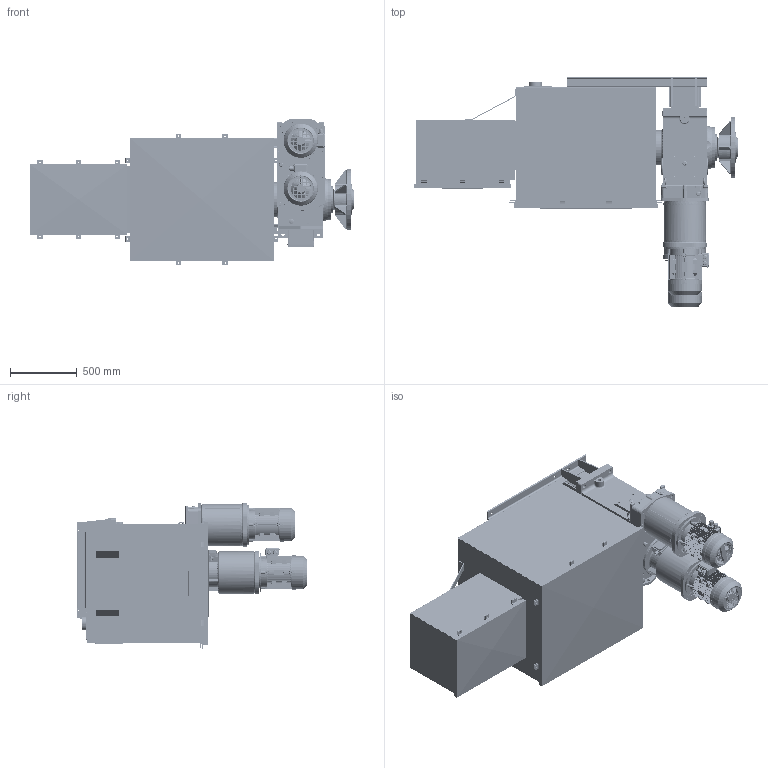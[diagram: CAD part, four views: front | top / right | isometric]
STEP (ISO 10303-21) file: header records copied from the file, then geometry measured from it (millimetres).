
FILE_DESCRIPTION(/* description */ (''),/* implementation_level */ '2;1');
FILE_NAME(/* name */ 'K:\NEMANJA\CABLE REEL\CABLE REEL DA\0700-6\07006002 DAPR-MCGBSR\STEP\75952.stp',/* time_stamp */ '2017-03-16T14:21:31+01:00',/* author */ ('vlakrc01'),/* organization */ ('Hillmar Industries Ltd.'),/* preprocessor_version */ 'ST-DEVELOPER v16.1',/* originating_system */ 'Autodesk Inventor 2016',/* authorisation */ '');
FILE_SCHEMA (('AUTOMOTIVE_DESIGN { 1 0 10303 214 3 1 1 }'));
Products named in the file (1): 75952
Bounding box: 2435.67 x 1729.71 x 1102.05 mm (x, y, z)
Volume: 127994191.1 mm3; surface area: 28777829.9 mm2
Topology: 19 solids, 19 shells, 10575 faces, 28953 edges, 18699 vertices
Faces by surface type: plane 6437, cylinder 2214, bspline 969, cone 559, torus 350, sphere 46
Full cylindrical faces by diameter (mm): 3 x8, 5 x8, 7 x4, 8 x4, 8.376 x24, 8.731 x1, 10 x44, 10.106 x93, 10.5 x4, 11 x44, 12 x12, 12.5 x6, 13 x40, 13.5 x12, 14 x32, 14.3 x12, 15 x16, 17 x4, 18 x2, 18.256 x3, 18.38 x4, 20 x17, 20.5 x4, 21.336 x1, 22 x24, 22.225 x1, 22.3 x4, 23.812 x2, 24.917 x1, 24.918 x1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
Entity records: 366984 total; most frequent: CARTESIAN_POINT 98592, ORIENTED_EDGE 55144, DIRECTION 49086, EDGE_CURVE 27550, VERTEX_POINT 18224, LINE 17232, VECTOR 17232, AXIS2_PLACEMENT_3D 15927
